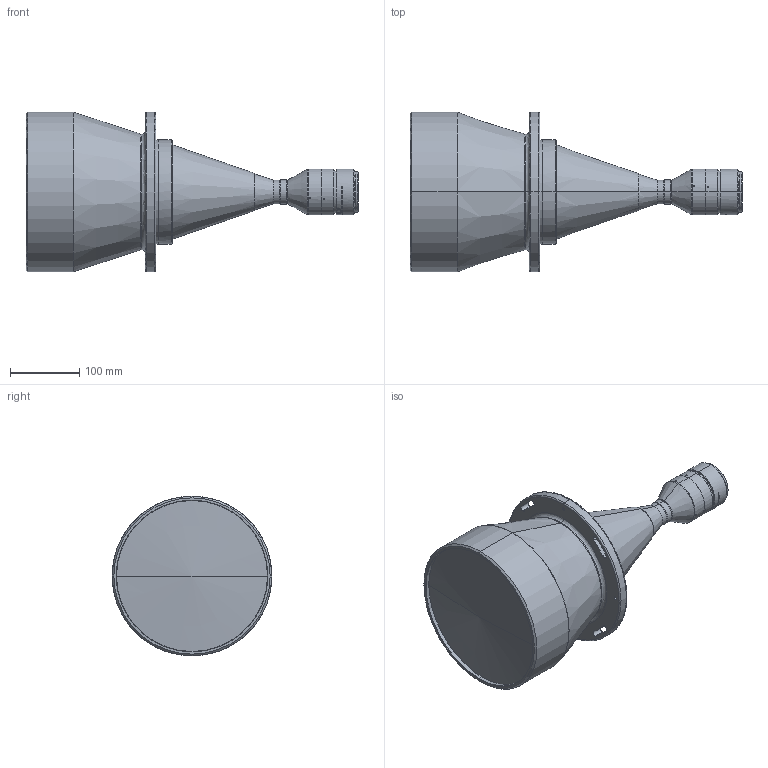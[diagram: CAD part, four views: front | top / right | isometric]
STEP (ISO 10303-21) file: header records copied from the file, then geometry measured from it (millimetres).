
FILE_DESCRIPTION (( 'STEP AP203' ), '1' );
FILE_NAME ('DTCM430-190-M58-AL.STEP', '2019-11-14T09:14:17', ( 'Windows 蚚誧' ), ( '' ), 'SwSTEP 2.0', 'SolidWorks 2017', '' );
FILE_SCHEMA (( 'CONFIG_CONTROL_DESIGN' ));
Length unit declared in the file: millimetre
Products named in the file (1): DTCM430-190-M58-AL
Bounding box: 478.26 x 230 x 230 mm (x, y, z)
Volume: 8135001.1 mm3; surface area: 300044 mm2
Topology: 5 solids, 5 shells, 186 faces, 442 edges, 278 vertices
Faces by surface type: cylinder 96, cone 49, plane 25, bspline 16
Entity records: 7036 total; most frequent: CARTESIAN_POINT 2718, DIRECTION 907, ORIENTED_EDGE 870, EDGE_CURVE 435, AXIS2_PLACEMENT_3D 381, VERTEX_POINT 278, EDGE_LOOP 223, CIRCLE 210
